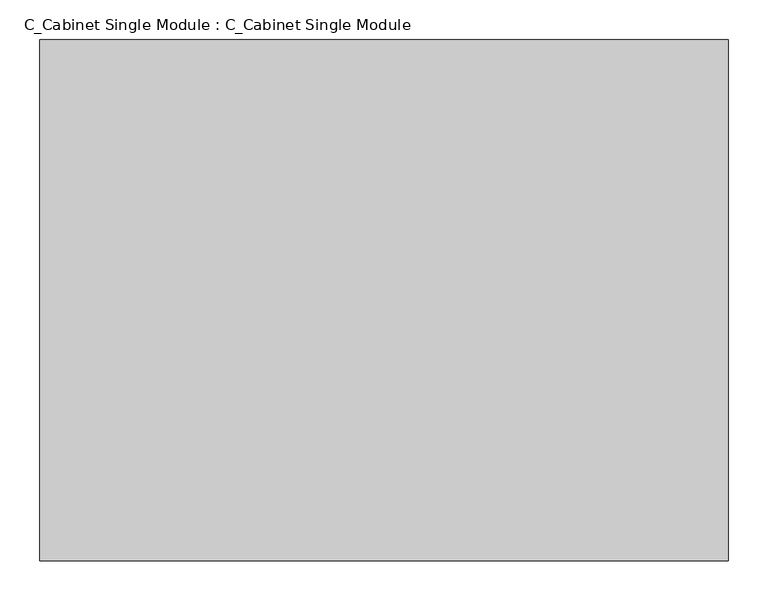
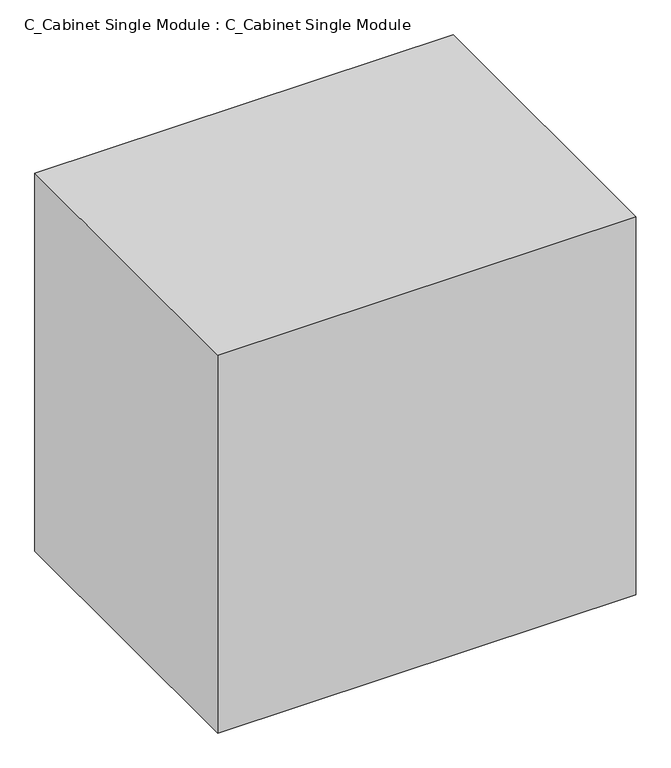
"""IFC4 building model written with IfcOpenShell, lengths in millimetres: furniture geometry, C_Cabinet Single Module : C_Cabinet Single Module."""

from ifc_helpers import new_model, si_unit, origin, origin_with_axes, place, context, project, spatial, polyline, outline, extrude, source, transform, mapped, element, save


def c_cabinet_single_module_c_cabinet_single_module_8d94940a(model_context):
    return source(origin(), model_context, "Body", "SweptSolid", [
        extrude(outline(polyline([(431.8, 0.0), (431.8, -654.05), (-431.8, -654.05), (-431.8, 0.0), (431.8, 0.0)])), origin_with_axes(), (0.0, 0.0, 1.0), 825.5),
    ])


if __name__ == "__main__":
    model = new_model("IFC4")
    model_context = context("Model", 3, world=origin())
    ifc_project = project(units=[si_unit("LENGTHUNIT", "METRE", prefix="MILLI")], contexts=[model_context])
    site = spatial("IfcSite", under=ifc_project)
    building = spatial("IfcBuilding", under=site)
    placement = place(None, origin())
    c_cabinet_single_module_c_cabinet_single_module_shape = c_cabinet_single_module_c_cabinet_single_module_8d94940a(model_context)
    element("IfcFurniture", 1, ObjectType="C_Cabinet Single Module : C_Cabinet Single Module", at=placement, inside=building, context=model_context, shape_type="MappedRepresentation", body=[
        mapped(c_cabinet_single_module_c_cabinet_single_module_shape, transform((0.0, 0.0, 0.0), x_axis=(1.0, 0.0, 0.0), y_axis=(0.0, 1.0, 0.0), z_axis=(0.0, 0.0, 1.0))),
    ])
    save(model, "model.ifc")
